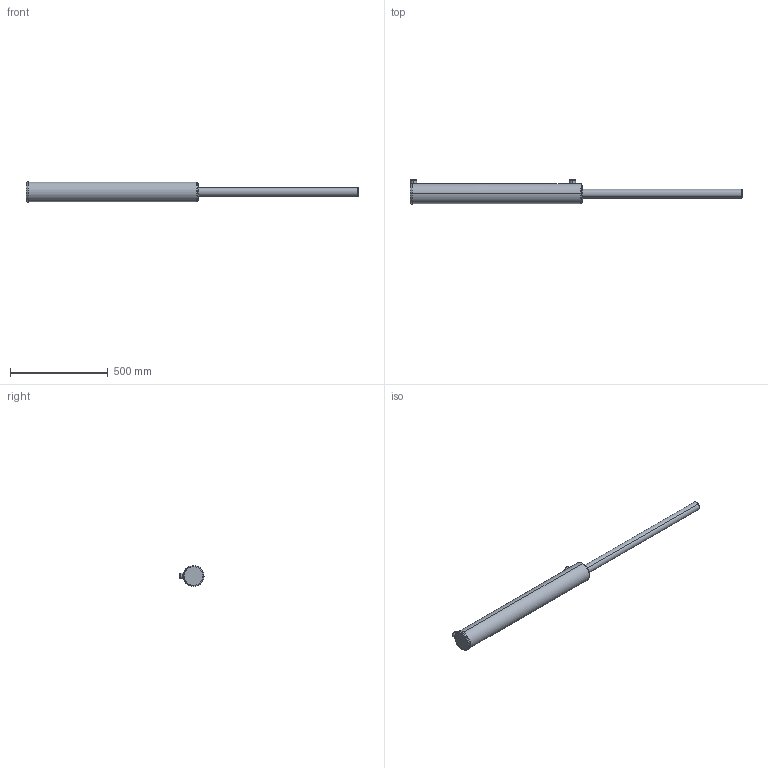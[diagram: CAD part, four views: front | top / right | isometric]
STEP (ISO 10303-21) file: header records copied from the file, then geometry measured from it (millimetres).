
FILE_DESCRIPTION (( 'STEP AP203' ), '1' );
FILE_NAME ('BL350175x762 (30) extended.STEP', '2014-11-24T03:40:48', ( '' ), ( '' ), 'SwSTEP 2.0', 'SolidWorks 2014', '' );
FILE_SCHEMA (( 'CONFIG_CONTROL_DESIGN' ));
Length unit declared in the file: millimetre
Products named in the file (3): BL body 3.5_3.5x30; Spare_3.5x30; BL350175x762 (30) extended
Assembly tree (2 placements, depth 2):
  BL350175x762 (30) extended
    BL body 3.5_3.5x30
    Spare_3.5x30
Bounding box: 1699 x 124.4 x 107.2 mm (x, y, z)
Volume: 8171810.4 mm3; surface area: 473979.6 mm2
Topology: 2 solids, 2 shells, 88 faces, 205 edges, 126 vertices
Faces by surface type: cylinder 32, plane 20, torus 17, bspline 11, cone 8
Entity records: 6022 total; most frequent: CARTESIAN_POINT 3775, DIRECTION 420, ORIENTED_EDGE 402, EDGE_CURVE 201, AXIS2_PLACEMENT_3D 181, VERTEX_POINT 126, EDGE_LOOP 101, CIRCLE 99
